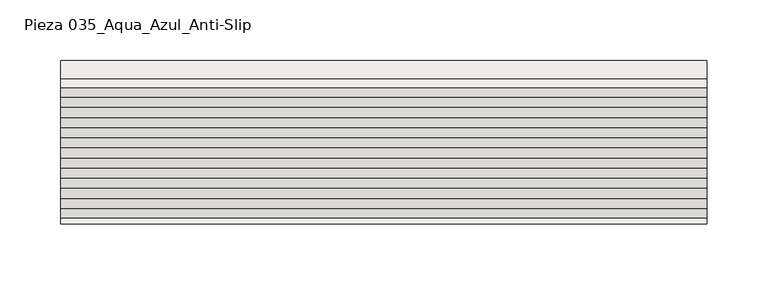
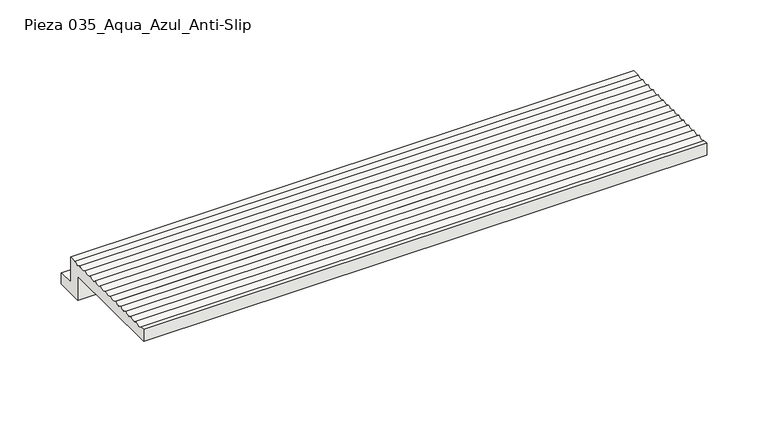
"""IFC4 building model written with IfcOpenShell, lengths in millimetres: slab geometry, ROSA GRES_035 : Pieza 035_Aqua_Azul_Anti-Slip."""

from ifc_helpers import new_model, si_unit, point, frame, frame_2d, origin, place, context, project, spatial, polyline, circle_curve, trimmed, segment, composite_curve, outline, extrude, source, transform, mapped, element, save


def pieza_035_aqua_azul_anti_slip_abb4f9d1(model_context):
    return source(origin(), model_context, "Body", "SweptSolid", [
        extrude(outline(composite_curve([segment(polyline([(-511.1821026, 191.3274907), (-511.1821026, 215.3274907), (-618.1821026, 215.3274907), (-618.1821026, 227.2926815), (-613.6860009, 227.2926815)]), True, "CONTINUOUS"), segment(trimmed(circle_curve(frame_2d((-609.8807503, 231.7505669)), 5.8611155), [point((-613.6860009, 227.2926815))], [point((-605.7277929, 227.6146729))], True, "CARTESIAN"), True, "CONTINUOUS"), segment(trimmed(circle_curve(frame_2d((-601.5775039, 231.7532445)), 5.8611155), [point((-605.7277929, 227.6146729))], [point((-597.4245465, 227.6173505))], True, "CARTESIAN"), True, "CONTINUOUS"), segment(trimmed(circle_curve(frame_2d((-593.2742574, 231.7559221)), 5.8611155), [point((-597.4245465, 227.6173505))], [point((-589.1213, 227.6200281))], True, "CARTESIAN"), True, "CONTINUOUS"), segment(trimmed(circle_curve(frame_2d((-584.9710109, 231.7585998)), 5.8611155), [point((-589.1213, 227.6200281))], [point((-580.8180535, 227.6227058))], True, "CARTESIAN"), True, "CONTINUOUS"), segment(trimmed(circle_curve(frame_2d((-576.6677645, 231.7612774)), 5.8611155), [point((-580.8180535, 227.6227058))], [point((-572.5148071, 227.6253834))], True, "CARTESIAN"), True, "CONTINUOUS"), segment(trimmed(circle_curve(frame_2d((-568.364518, 231.763955)), 5.8611155), [point((-572.5148071, 227.6253834))], [point((-564.2115606, 227.628061))], True, "CARTESIAN"), True, "CONTINUOUS"), segment(trimmed(circle_curve(frame_2d((-560.0612716, 231.7666327)), 5.8611155), [point((-564.2115606, 227.628061))], [point((-555.9083142, 227.6307387))], True, "CARTESIAN"), True, "CONTINUOUS"), segment(trimmed(circle_curve(frame_2d((-551.7580251, 231.7693103)), 5.8611155), [point((-555.9083142, 227.6307387))], [point((-547.6050677, 227.6334163))], True, "CARTESIAN"), True, "CONTINUOUS"), segment(trimmed(circle_curve(frame_2d((-543.4547786, 231.7719879)), 5.8611155), [point((-547.6050677, 227.6334163))], [point((-539.3018212, 227.6360939))], True, "CARTESIAN"), True, "CONTINUOUS"), segment(trimmed(circle_curve(frame_2d((-535.1515322, 231.7746656)), 5.8611155), [point((-539.3018212, 227.6360939))], [point((-530.9985748, 227.6387716))], True, "CARTESIAN"), True, "CONTINUOUS"), segment(trimmed(circle_curve(frame_2d((-526.8482857, 231.7773432)), 5.8611155), [point((-530.9985748, 227.6387716))], [point((-522.6953283, 227.6414492))], True, "CARTESIAN"), True, "CONTINUOUS"), segment(trimmed(circle_curve(frame_2d((-518.5450393, 231.7800208)), 5.8611155), [point((-522.6953283, 227.6414492))], [point((-514.3920818, 227.6441268))], True, "CARTESIAN"), True, "CONTINUOUS"), segment(trimmed(circle_curve(frame_2d((-510.2417928, 231.7826985)), 5.8611155), [point((-514.3920818, 227.6441268))], [point((-506.4334076, 227.3274907))], True, "CARTESIAN"), True, "CONTINUOUS"), segment(polyline([(-506.4334076, 227.3274907), (-499.1821026, 227.3274907), (-499.1821026, 202.3274907), (-484.1821026, 202.3274907), (-484.1821026, 191.3274907), (-511.1821026, 191.3274907)]), True, "CONTINUOUS")], self_intersect=False)), frame((0.0, 0.0, 0.0), z_axis=(1.0, 0.0, 0.0), x_axis=(0.0, 1.0, 0.0)), (0.0, 0.0, 1.0), 530.0),
    ])


if __name__ == "__main__":
    model = new_model("IFC4")
    model_context = context("Model", 3, world=origin())
    ifc_project = project(units=[si_unit("LENGTHUNIT", "METRE", prefix="MILLI")], contexts=[model_context])
    site = spatial("IfcSite", under=ifc_project)
    building = spatial("IfcBuilding", under=site)
    placement = place(None, origin())
    pieza_035_aqua_azul_anti_slip_shape = pieza_035_aqua_azul_anti_slip_abb4f9d1(model_context)
    element("IfcSlab", 1, ObjectType="ROSA GRES_035 : Pieza 035_Aqua_Azul_Anti-Slip", at=placement, inside=building, context=model_context, shape_type="MappedRepresentation", body=[
        mapped(pieza_035_aqua_azul_anti_slip_shape, transform((0.0, 0.0, 0.0), x_axis=(1.0, 0.0, 0.0), y_axis=(0.0, 1.0, 0.0), z_axis=(0.0, 0.0, 1.0))),
    ])
    save(model, "model.ifc")
